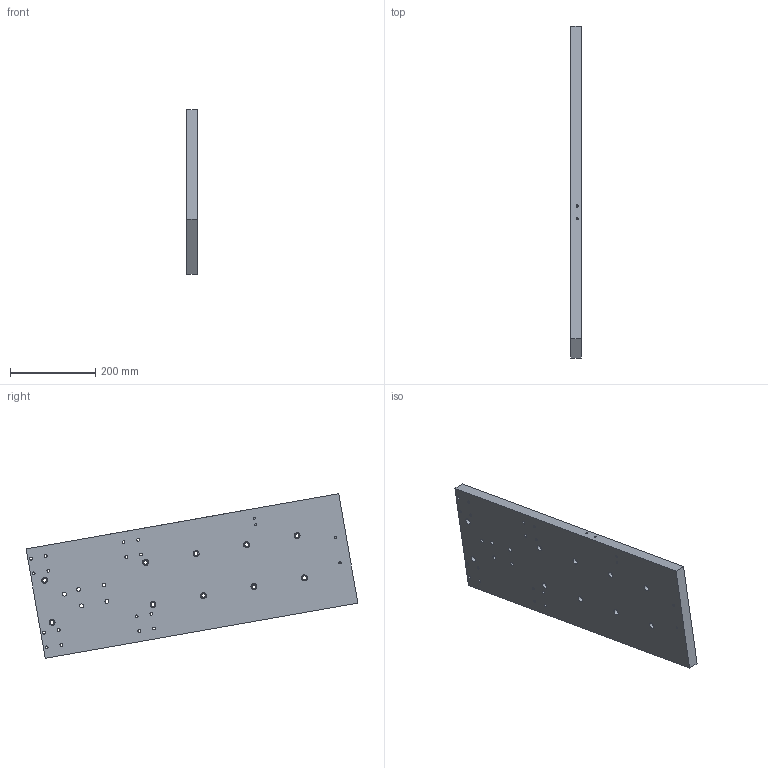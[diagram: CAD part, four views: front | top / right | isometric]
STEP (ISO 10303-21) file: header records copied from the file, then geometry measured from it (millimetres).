
FILE_DESCRIPTION(('golf model'),'2;1');
FILE_NAME('golf','',(''),(''),'golf_step_io','golf','');
FILE_SCHEMA(('AUTOMOTIVE_DESIGN { 1 0 10303 214 1 1 1 1 }'));
Length unit declared in the file: millimetre
Products named in the file (2): ASSEMBLY; y_carriage.y_plate
Assembly tree (1 placements, depth 2):
  ASSEMBLY
    y_carriage.y_plate
Bounding box: 25 x 776.86 x 385.07 mm (x, y, z)
Volume: 4770839.7 mm3; surface area: 458516.6 mm2
Topology: 1 solids, 1 shells, 123 faces, 306 edges, 228 vertices
Faces by surface type: cylinder 74, plane 49
Full cylindrical faces by diameter (mm): 4.2 x2, 5 x10, 6.6 x16, 9 x15, 11 x16, 14 x15
Entity records: 2964 total; most frequent: DIRECTION 558, CARTESIAN_POINT 441, ORIENTED_EDGE 320, EDGE_LOOP 302, AXIS2_PLACEMENT_3D 273, FACE_BOUND 268, EDGE_CURVE 160, VERTEX_POINT 156
